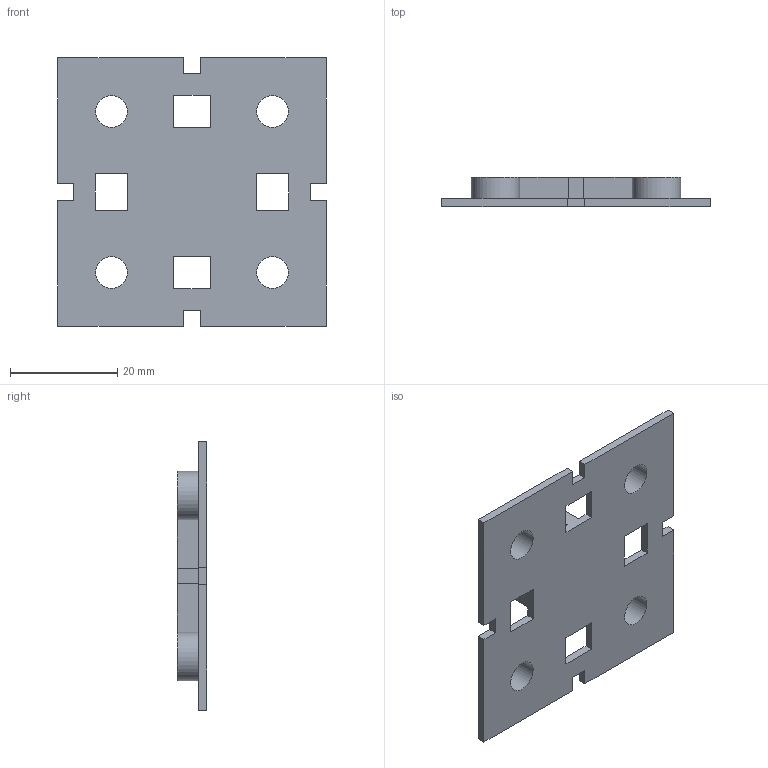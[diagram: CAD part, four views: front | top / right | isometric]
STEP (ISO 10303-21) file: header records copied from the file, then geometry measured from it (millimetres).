
FILE_DESCRIPTION(/* description */ (''),/* implementation_level */ '2;1');
FILE_NAME(/* name */ 'C:/Users/priba/Downloads/ArenaJoinBottom.step',/* time_stamp */ '2021-10-23T19:35:02+02:00',/* author */ (''),/* organization */ (''),/* preprocessor_version */ 'ST-DEVELOPER v18.1',/* originating_system */ 'Autodesk Translation Framework v10.10.0.1391',/* authorisation */ '');
FILE_SCHEMA (('AUTOMOTIVE_DESIGN { 1 0 10303 214 3 1 1 }'));
Length unit declared in the file: millimetre
Products named in the file (1): ArenaJoinBottom
Bounding box: 50 x 5.5 x 50 mm (x, y, z)
Volume: 4370.2 mm3; surface area: 6111.9 mm2
Topology: 1 solids, 1 shells, 59 faces, 168 edges, 112 vertices
Faces by surface type: plane 51, cylinder 8
Full cylindrical faces by diameter (mm): 5.9 x4, 9 x4
Entity records: 1952 total; most frequent: CARTESIAN_POINT 340, ORIENTED_EDGE 336, DIRECTION 304, EDGE_CURVE 168, LINE 152, VECTOR 152, VERTEX_POINT 112, EDGE_LOOP 76
